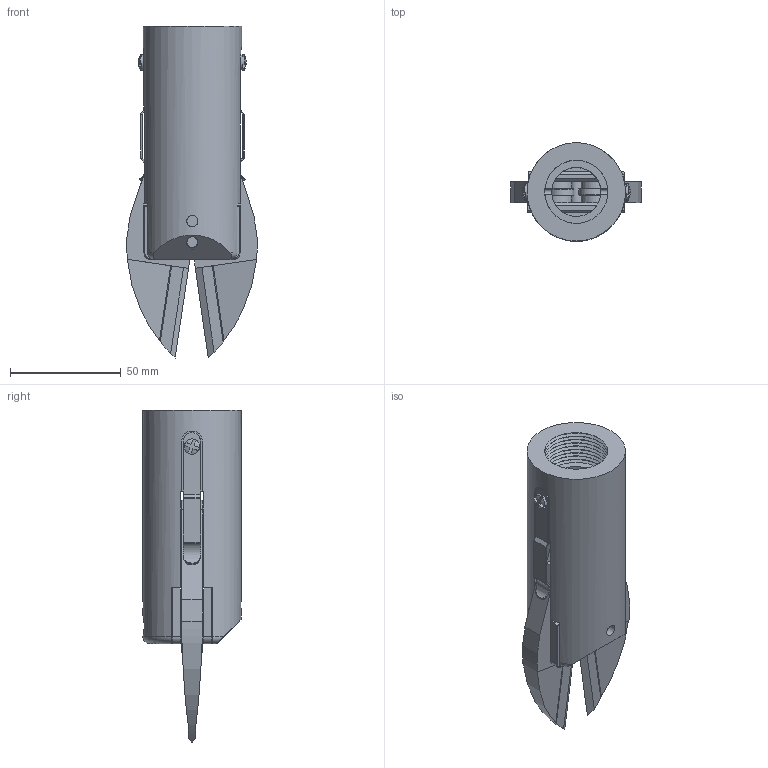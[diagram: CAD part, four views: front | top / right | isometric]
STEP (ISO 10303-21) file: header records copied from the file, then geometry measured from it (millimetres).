
FILE_DESCRIPTION (( 'STEP AP203' ), '1' );
FILE_NAME ('B-33.STEP', '2015-08-25T19:40:54', ( 'Andrew' ), ( '' ), 'SwSTEP 2.0', 'SolidWorks 2015', '' );
FILE_SCHEMA (( 'CONFIG_CONTROL_DESIGN' ));
Length unit declared in the file: inch
Products named in the file (12): 3-20; 3-23; B-33; 28-01; 3-30-A; socket head cap screw_ai_HX-SHCS 0.25-20x1.25x1.25-N; 3-41; 3-2; SA-2; B-33L; B-33R; 3-19-453
Assembly tree (19 placements, depth 3):
  B-33
    SA-2
      3-23  x4
      3-30-A  x2
      3-41  x2
      28-01  x2
      socket head cap screw_ai_HX-SHCS 0.25-20x1.25x1.25-N
      3-2
    B-33L
    B-33R
    3-19-453  x2
    3-20  x2
Bounding box: 58.92 x 44.45 x 149.93 mm (x, y, z)
Volume: 137418.7 mm3; surface area: 49867.7 mm2
Topology: 18 solids, 18 shells, 391 faces, 926 edges, 570 vertices
Faces by surface type: plane 166, cylinder 95, cone 88, torus 26, sphere 12, bspline 4
Full cylindrical faces by diameter (mm): 2.705 x2, 3.658 x2, 4.757 x4, 4.762 x2, 4.813 x2, 5.105 x3, 6.121 x2, 6.35 x6, 6.351 x2, 6.353 x2, 6.858 x2, 7.137 x2, 9.525 x1, 10.312 x1, 11.506 x2, 22.2 x1, 44.45 x1
Entity records: 9413 total; most frequent: CARTESIAN_POINT 1936, DIRECTION 1308, ORIENTED_EDGE 1108, EDGE_CURVE 554, AXIS2_PLACEMENT_3D 513, VERTEX_POINT 388, EDGE_LOOP 370, FACE_OUTER_BOUND 288
